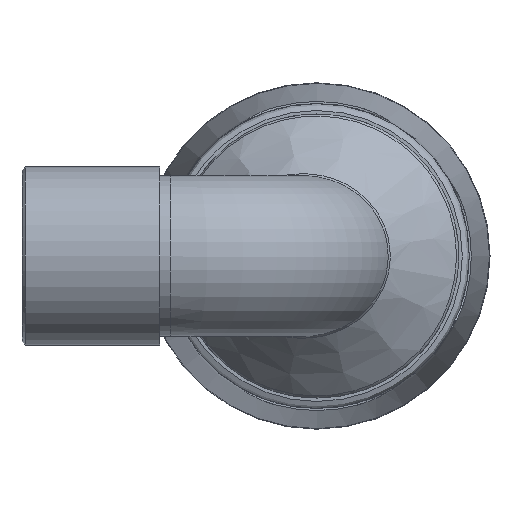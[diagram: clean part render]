
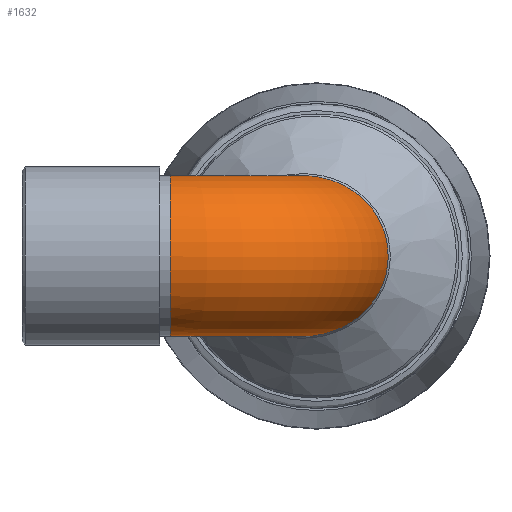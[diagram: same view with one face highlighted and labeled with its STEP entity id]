
A CAD part, left-side view. The second image highlights one B-rep face of the part: STEP entity #1632.
In plain terms, the highlighted toroidal (fillet/blend) face has major radius 19.868 mm and minor radius 10.899 mm.
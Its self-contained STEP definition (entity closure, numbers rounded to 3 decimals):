
#17=TOROIDAL_SURFACE('',#1782,19.868,10.899);
#186=B_SPLINE_CURVE_WITH_KNOTS('',3,(#2777,#2778,#2779,#2780,#2781,#2782,
#2783,#2784,#2785,#2786,#2787,#2788,#2789,#2790,#2791,#2792,#2793),
 .UNSPECIFIED.,.T.,.F.,(4,1,1,1,1,1,1,1,1,1,1,1,1,1,4),(-3.142,
-2.917,-2.693,-2.244,-1.346,
-1.047,-0.449,0.15,0.449,
0.898,1.346,2.244,2.693,2.917,
3.142),.UNSPECIFIED.);
#365=FACE_BOUND('',#518,.T.);
#395=FACE_OUTER_BOUND('',#517,.T.);
#517=EDGE_LOOP('',(#1186));
#518=EDGE_LOOP('',(#1187));
#664=CIRCLE('',#1777,10.899);
#757=VERTEX_POINT('',#2775);
#761=VERTEX_POINT('',#2804);
#921=EDGE_CURVE('',#757,#757,#186,.T.);
#925=EDGE_CURVE('',#761,#761,#664,.T.);
#1186=ORIENTED_EDGE('',*,*,#921,.F.);
#1187=ORIENTED_EDGE('',*,*,#925,.T.);
#1632=ADVANCED_FACE('',(#395,#365),#17,.T.);
#1777=AXIS2_PLACEMENT_3D('',#2805,#2030,#2031);
#1782=AXIS2_PLACEMENT_3D('',#2813,#2040,#2041);
#2030=DIRECTION('center_axis',(0.,-1.,0.));
#2031=DIRECTION('ref_axis',(-1.,0.,0.));
#2040=DIRECTION('center_axis',(0.,0.,1.));
#2041=DIRECTION('ref_axis',(1.,0.,0.));
#2775=CARTESIAN_POINT('',(11.952,15.652,0.));
#2777=CARTESIAN_POINT('Ctrl Pts',(11.952,15.652,0.));
#2778=CARTESIAN_POINT('Ctrl Pts',(11.952,15.652,0.867));
#2779=CARTESIAN_POINT('Ctrl Pts',(11.878,15.336,2.601));
#2780=CARTESIAN_POINT('Ctrl Pts',(11.546,13.627,5.726));
#2781=CARTESIAN_POINT('Ctrl Pts',(11.036,8.886,9.985));
#2782=CARTESIAN_POINT('Ctrl Pts',(11.11,2.141,11.577));
#2783=CARTESIAN_POINT('Ctrl Pts',(11.221,-4.636,9.508));
#2784=CARTESIAN_POINT('Ctrl Pts',(11.304,-9.11,5.379));
#2785=CARTESIAN_POINT('Ctrl Pts',(11.318,-10.126,-0.652));
#2786=CARTESIAN_POINT('Ctrl Pts',(11.29,-8.387,-5.641));
#2787=CARTESIAN_POINT('Ctrl Pts',(11.232,-5.179,-9.161));
#2788=CARTESIAN_POINT('Ctrl Pts',(11.118,1.533,-11.732));
#2789=CARTESIAN_POINT('Ctrl Pts',(11.036,8.883,-9.98));
#2790=CARTESIAN_POINT('Ctrl Pts',(11.546,13.628,-5.727));
#2791=CARTESIAN_POINT('Ctrl Pts',(11.878,15.336,-2.601));
#2792=CARTESIAN_POINT('Ctrl Pts',(11.952,15.652,-0.867));
#2793=CARTESIAN_POINT('Ctrl Pts',(11.952,15.652,0.));
#2804=CARTESIAN_POINT('',(10.899,19.868,0.));
#2805=CARTESIAN_POINT('Origin',(0.,19.868,0.));
#2813=CARTESIAN_POINT('Origin',(19.868,19.868,0.));
